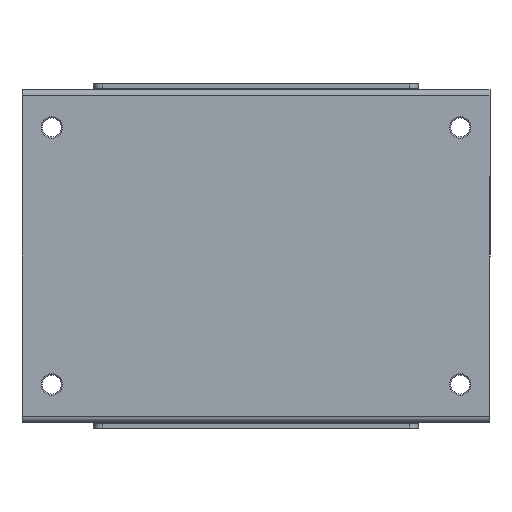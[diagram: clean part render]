
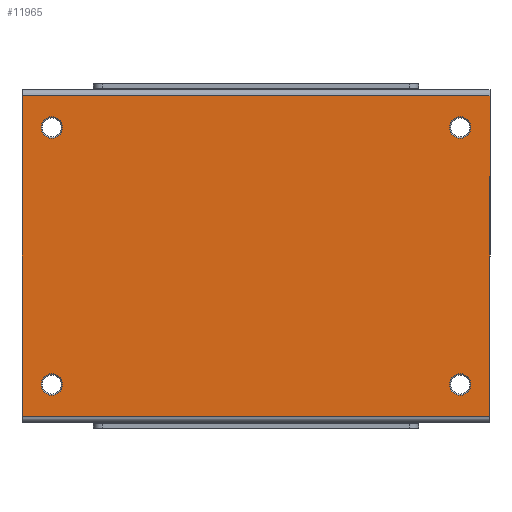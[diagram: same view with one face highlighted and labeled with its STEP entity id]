
A CAD part, front view. The second image highlights one B-rep face of the part: STEP entity #11965.
In plain terms, the highlighted planar face has unit normal (0, -1, 0).
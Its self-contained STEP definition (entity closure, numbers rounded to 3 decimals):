
#456 = AXIS2_PLACEMENT_3D ( 'NONE', #99364, #134870, #26843 ) ;
#2983 = EDGE_CURVE ( 'NONE', #138881, #112980, #52523, .T. ) ;
#4670 = CARTESIAN_POINT ( 'NONE',  ( 24.391, -13.089, 105.194 ) ) ;
#8531 = CARTESIAN_POINT ( 'NONE',  ( 24.391, -13.089, 148.374 ) ) ;
#8618 = AXIS2_PLACEMENT_3D ( 'NONE', #61491, #83512, #156005 ) ;
#10570 = CIRCLE ( 'NONE', #116465, 1.8 ) ;
#11224 = CARTESIAN_POINT ( 'NONE',  ( 25.95, -13.089, 147.474 ) ) ;
#11965 = ADVANCED_FACE ( 'NONE', ( #37565, #25703, #73855, #110142, #13853 ), #62036, .F. ) ;
#12993 = CARTESIAN_POINT ( 'NONE',  ( -44.189, -13.089, 105.194 ) ) ;
#13765 = DIRECTION ( 'NONE',  ( -0.866, 0., 0.5 ) ) ;
#13853 = FACE_BOUND ( 'NONE', #108049, .T. ) ;
#15608 = VECTOR ( 'NONE', #82554, 1000. ) ;
#15765 = VECTOR ( 'NONE', #76923, 1000. ) ;
#19017 = AXIS2_PLACEMENT_3D ( 'NONE', #8531, #104755, #31450 ) ;
#19829 = ORIENTED_EDGE ( 'NONE', *, *, #22167, .T. ) ;
#22167 = EDGE_CURVE ( 'NONE', #120969, #62110, #144540, .T. ) ;
#25703 = FACE_OUTER_BOUND ( 'NONE', #93463, .T. ) ;
#25721 = CARTESIAN_POINT ( 'NONE',  ( -49.199, -13.089, 99.834 ) ) ;
#26843 = DIRECTION ( 'NONE',  ( -0.866, 0., 0.5 ) ) ;
#26884 = ORIENTED_EDGE ( 'NONE', *, *, #38373, .T. ) ;
#27784 = CARTESIAN_POINT ( 'NONE',  ( 25.95, -13.089, 104.294 ) ) ;
#28623 = VECTOR ( 'NONE', #57478, 1000. ) ;
#31450 = DIRECTION ( 'NONE',  ( -0.866, 0., 0.5 ) ) ;
#31521 = AXIS2_PLACEMENT_3D ( 'NONE', #4670, #66928, #54408 ) ;
#32216 = CARTESIAN_POINT ( 'NONE',  ( -45.748, -13.089, 106.094 ) ) ;
#33755 = VERTEX_POINT ( 'NONE', #140970 ) ;
#33837 = ORIENTED_EDGE ( 'NONE', *, *, #112807, .T. ) ;
#34093 = DIRECTION ( 'NONE',  ( -0.866, 0., 0.5 ) ) ;
#35435 = CARTESIAN_POINT ( 'NONE',  ( -49.199, -13.089, 153.734 ) ) ;
#37565 = FACE_BOUND ( 'NONE', #101380, .T. ) ;
#38373 = EDGE_CURVE ( 'NONE', #138881, #74683, #132220, .T. ) ;
#40138 = AXIS2_PLACEMENT_3D ( 'NONE', #54115, #146269, #63569 ) ;
#45965 = CARTESIAN_POINT ( 'NONE',  ( -44.189, -13.089, 148.374 ) ) ;
#47339 = VERTEX_POINT ( 'NONE', #54582 ) ;
#52523 = LINE ( 'NONE', #64338, #15765 ) ;
#53219 = AXIS2_PLACEMENT_3D ( 'NONE', #53489, #151896, #151113 ) ;
#53489 = CARTESIAN_POINT ( 'NONE',  ( -44.189, -13.089, 105.194 ) ) ;
#54115 = CARTESIAN_POINT ( 'NONE',  ( -41.489, -13.089, 100.517 ) ) ;
#54408 = DIRECTION ( 'NONE',  ( -0.866, 0., 0.5 ) ) ;
#54582 = CARTESIAN_POINT ( 'NONE',  ( -42.63, -13.089, 147.474 ) ) ;
#56698 = CIRCLE ( 'NONE', #31521, 1.8 ) ;
#57478 = DIRECTION ( 'NONE',  ( -1., 0., 0. ) ) ;
#59993 = CARTESIAN_POINT ( 'NONE',  ( 29.401, -13.089, 99.834 ) ) ;
#61447 = EDGE_CURVE ( 'NONE', #74683, #33755, #93449, .T. ) ;
#61491 = CARTESIAN_POINT ( 'NONE',  ( 24.391, -13.089, 148.374 ) ) ;
#62036 = PLANE ( 'NONE',  #40138 ) ;
#62110 = VERTEX_POINT ( 'NONE', #87133 ) ;
#63091 = ORIENTED_EDGE ( 'NONE', *, *, #125795, .T. ) ;
#63569 = DIRECTION ( 'NONE',  ( -0.866, 0., 0.5 ) ) ;
#63932 = EDGE_CURVE ( 'NONE', #139554, #128818, #70730, .T. ) ;
#64243 = AXIS2_PLACEMENT_3D ( 'NONE', #45965, #94000, #34093 ) ;
#64338 = CARTESIAN_POINT ( 'NONE',  ( -49.199, -13.089, 154.734 ) ) ;
#64714 = ORIENTED_EDGE ( 'NONE', *, *, #63932, .T. ) ;
#66173 = ORIENTED_EDGE ( 'NONE', *, *, #129814, .T. ) ;
#66928 = DIRECTION ( 'NONE',  ( 0., 1., 0. ) ) ;
#66994 = DIRECTION ( 'NONE',  ( -0.866, 0., 0.5 ) ) ;
#68407 = CIRCLE ( 'NONE', #456, 1.8 ) ;
#70730 = CIRCLE ( 'NONE', #53219, 1.8 ) ;
#72162 = CIRCLE ( 'NONE', #99766, 1.8 ) ;
#73855 = FACE_BOUND ( 'NONE', #141029, .T. ) ;
#74683 = VERTEX_POINT ( 'NONE', #59993 ) ;
#76923 = DIRECTION ( 'NONE',  ( 0., 0., 1. ) ) ;
#79530 = CARTESIAN_POINT ( 'NONE',  ( -49.199, -13.089, 153.734 ) ) ;
#81161 = DIRECTION ( 'NONE',  ( 0., 1., 0. ) ) ;
#82554 = DIRECTION ( 'NONE',  ( 1., 0., 0. ) ) ;
#82823 = ORIENTED_EDGE ( 'NONE', *, *, #114518, .T. ) ;
#83512 = DIRECTION ( 'NONE',  ( 0., 1., 0. ) ) ;
#87035 = CIRCLE ( 'NONE', #19017, 1.8 ) ;
#87133 = CARTESIAN_POINT ( 'NONE',  ( 22.832, -13.089, 149.274 ) ) ;
#87699 = EDGE_LOOP ( 'NONE', ( #19829, #63091 ) ) ;
#91938 = CARTESIAN_POINT ( 'NONE',  ( 22.832, -13.089, 106.094 ) ) ;
#92846 = LINE ( 'NONE', #79530, #28623 ) ;
#93449 = LINE ( 'NONE', #107689, #125391 ) ;
#93463 = EDGE_LOOP ( 'NONE', ( #120088, #26884, #119372, #101002 ) ) ;
#94000 = DIRECTION ( 'NONE',  ( 0., 1., 0. ) ) ;
#94165 = VERTEX_POINT ( 'NONE', #107596 ) ;
#99364 = CARTESIAN_POINT ( 'NONE',  ( 24.391, -13.089, 105.194 ) ) ;
#99766 = AXIS2_PLACEMENT_3D ( 'NONE', #118253, #81161, #66994 ) ;
#101002 = ORIENTED_EDGE ( 'NONE', *, *, #114902, .T. ) ;
#101380 = EDGE_LOOP ( 'NONE', ( #66173, #64714 ) ) ;
#104755 = DIRECTION ( 'NONE',  ( 0., 1., 0. ) ) ;
#107008 = CIRCLE ( 'NONE', #64243, 1.8 ) ;
#107596 = CARTESIAN_POINT ( 'NONE',  ( -45.748, -13.089, 149.274 ) ) ;
#107689 = CARTESIAN_POINT ( 'NONE',  ( 29.401, -13.089, 154.734 ) ) ;
#108049 = EDGE_LOOP ( 'NONE', ( #141913, #33837 ) ) ;
#109251 = CARTESIAN_POINT ( 'NONE',  ( -42.63, -13.089, 104.294 ) ) ;
#110142 = FACE_BOUND ( 'NONE', #87699, .T. ) ;
#112807 = EDGE_CURVE ( 'NONE', #153927, #155601, #68407, .T. ) ;
#112980 = VERTEX_POINT ( 'NONE', #35435 ) ;
#114518 = EDGE_CURVE ( 'NONE', #94165, #47339, #107008, .T. ) ;
#114902 = EDGE_CURVE ( 'NONE', #33755, #112980, #92846, .T. ) ;
#116465 = AXIS2_PLACEMENT_3D ( 'NONE', #12993, #121899, #13765 ) ;
#118253 = CARTESIAN_POINT ( 'NONE',  ( -44.189, -13.089, 148.374 ) ) ;
#119372 = ORIENTED_EDGE ( 'NONE', *, *, #61447, .T. ) ;
#120088 = ORIENTED_EDGE ( 'NONE', *, *, #2983, .F. ) ;
#120969 = VERTEX_POINT ( 'NONE', #11224 ) ;
#121137 = EDGE_CURVE ( 'NONE', #155601, #153927, #56698, .T. ) ;
#121899 = DIRECTION ( 'NONE',  ( 0., 1., 0. ) ) ;
#125391 = VECTOR ( 'NONE', #129763, 1000. ) ;
#125795 = EDGE_CURVE ( 'NONE', #62110, #120969, #87035, .T. ) ;
#128818 = VERTEX_POINT ( 'NONE', #109251 ) ;
#129364 = ORIENTED_EDGE ( 'NONE', *, *, #141052, .T. ) ;
#129763 = DIRECTION ( 'NONE',  ( 0., 0., 1. ) ) ;
#129814 = EDGE_CURVE ( 'NONE', #128818, #139554, #10570, .T. ) ;
#132220 = LINE ( 'NONE', #25721, #15608 ) ;
#134870 = DIRECTION ( 'NONE',  ( 0., 1., 0. ) ) ;
#138881 = VERTEX_POINT ( 'NONE', #154724 ) ;
#139554 = VERTEX_POINT ( 'NONE', #32216 ) ;
#140970 = CARTESIAN_POINT ( 'NONE',  ( 29.401, -13.089, 153.734 ) ) ;
#141029 = EDGE_LOOP ( 'NONE', ( #129364, #82823 ) ) ;
#141052 = EDGE_CURVE ( 'NONE', #47339, #94165, #72162, .T. ) ;
#141913 = ORIENTED_EDGE ( 'NONE', *, *, #121137, .T. ) ;
#144540 = CIRCLE ( 'NONE', #8618, 1.8 ) ;
#146269 = DIRECTION ( 'NONE',  ( 0., 1., 0. ) ) ;
#151113 = DIRECTION ( 'NONE',  ( -0.866, 0., 0.5 ) ) ;
#151896 = DIRECTION ( 'NONE',  ( 0., 1., 0. ) ) ;
#153927 = VERTEX_POINT ( 'NONE', #91938 ) ;
#154724 = CARTESIAN_POINT ( 'NONE',  ( -49.199, -13.089, 99.834 ) ) ;
#155601 = VERTEX_POINT ( 'NONE', #27784 ) ;
#156005 = DIRECTION ( 'NONE',  ( -0.866, 0., 0.5 ) ) ;
